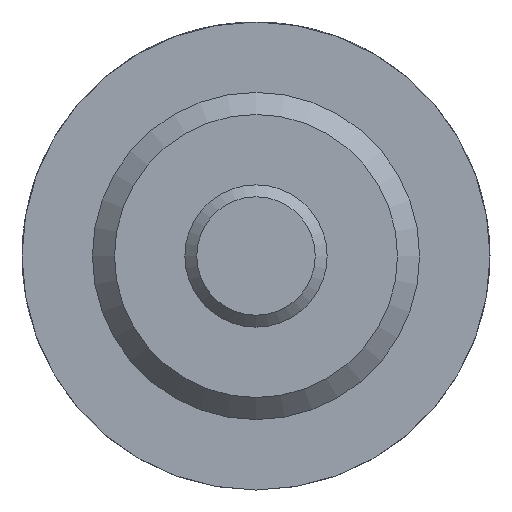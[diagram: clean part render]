
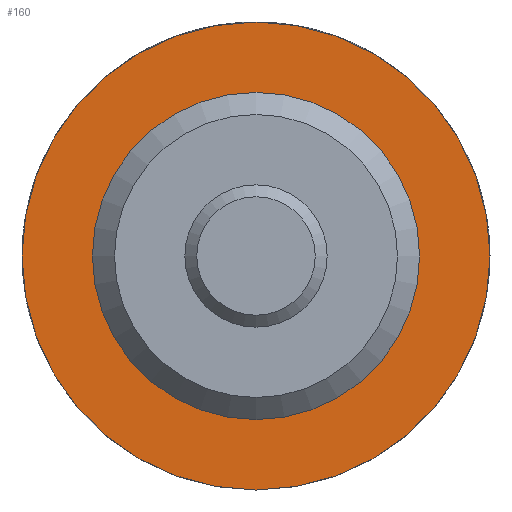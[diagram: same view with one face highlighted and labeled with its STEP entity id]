
A CAD part, left-side view. The second image highlights one B-rep face of the part: STEP entity #160.
In plain terms, the highlighted planar face has unit normal (-1, 0, 0).
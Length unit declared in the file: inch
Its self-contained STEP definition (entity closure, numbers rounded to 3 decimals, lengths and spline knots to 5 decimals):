
#160 = ADVANCED_FACE( '', ( #345, #346 ), #347, .F. );
#345 = FACE_OUTER_BOUND( '', #572, .T. );
#346 = FACE_BOUND( '', #573, .T. );
#347 = PLANE( '', #574 );
#572 = EDGE_LOOP( '', ( #849 ) );
#573 = EDGE_LOOP( '', ( #850 ) );
#574 = AXIS2_PLACEMENT_3D( '', #851, #852, #853 );
#849 = ORIENTED_EDGE( '', *, *, #1201, .F. );
#850 = ORIENTED_EDGE( '', *, *, #1207, .T. );
#851 = CARTESIAN_POINT( '', ( 0.375, 0.2185, 0. ) );
#852 = DIRECTION( '', ( 1., 0., 0. ) );
#853 = DIRECTION( '', ( 0., 0., -1. ) );
#1201 = EDGE_CURVE( '', #1396, #1396, #1397, .T. );
#1207 = EDGE_CURVE( '', #1406, #1406, #1407, .T. );
#1396 = VERTEX_POINT( '', #1688 );
#1397 = CIRCLE( '', #1689, 0.3125 );
#1406 = VERTEX_POINT( '', #1767 );
#1407 = CIRCLE( '', #1768, 0.2185 );
#1688 = CARTESIAN_POINT( '', ( 0.375, 0., -0.3125 ) );
#1689 = AXIS2_PLACEMENT_3D( '', #2049, #2050, #2051 );
#1767 = CARTESIAN_POINT( '', ( 0.375, 0., -0.2185 ) );
#1768 = AXIS2_PLACEMENT_3D( '', #2058, #2059, #2060 );
#2049 = CARTESIAN_POINT( '', ( 0.375, 0., 0. ) );
#2050 = DIRECTION( '', ( 1., 0., 0. ) );
#2051 = DIRECTION( '', ( 0., 0., -1. ) );
#2058 = CARTESIAN_POINT( '', ( 0.375, 0., 0. ) );
#2059 = DIRECTION( '', ( 1., 0., 0. ) );
#2060 = DIRECTION( '', ( 0., 0., -1. ) );
